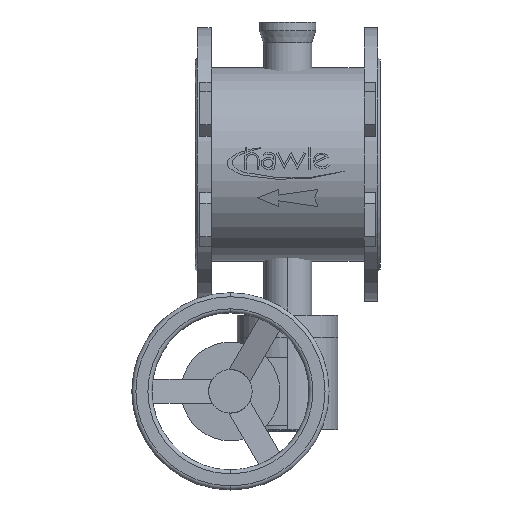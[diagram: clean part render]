
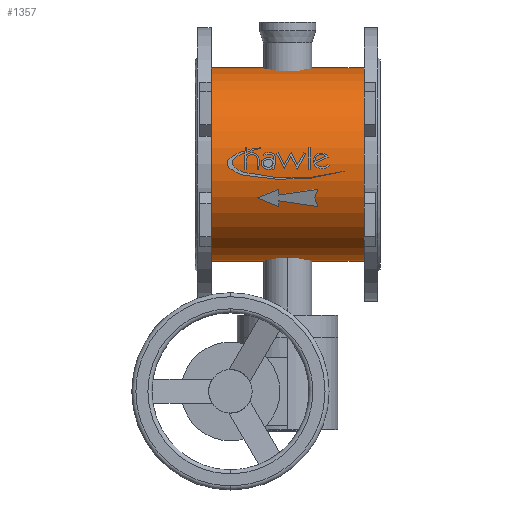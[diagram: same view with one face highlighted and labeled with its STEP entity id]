
A CAD part, top view. The second image highlights one B-rep face of the part: STEP entity #1357.
In plain terms, the highlighted cylindrical face has radius 120 mm (diameter 240 mm), a partial arc.
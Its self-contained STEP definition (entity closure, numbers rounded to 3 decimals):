
#1357=ADVANCED_FACE('',(#2612),#2613,.T.);
#2612=FACE_OUTER_BOUND('',#4088,.T.);
#2613=CYLINDRICAL_SURFACE('',#4089,120.0);
#4088=EDGE_LOOP('',(#6522,#6523,#6524,#6525));
#4089=AXIS2_PLACEMENT_3D('',#6526,#6527,#6528);
#6522=ORIENTED_EDGE('',*,*,#8355,.T.);
#6523=ORIENTED_EDGE('',*,*,#8767,.T.);
#6524=ORIENTED_EDGE('',*,*,#8356,.T.);
#6525=ORIENTED_EDGE('',*,*,#8349,.T.);
#6526=CARTESIAN_POINT('',(-210.0,0.,0.0));
#6527=DIRECTION('',(1.0,0.,0.0));
#6528=DIRECTION('',(0.,-1.0,0.0));
#8349=EDGE_CURVE('',#9972,#9971,#9974,.T.);
#8355=EDGE_CURVE('',#9971,#9982,#9983,.T.);
#8356=EDGE_CURVE('',#9984,#9972,#9985,.T.);
#8767=EDGE_CURVE('',#9982,#9984,#10557,.T.);
#9971=VERTEX_POINT('',#12129);
#9972=VERTEX_POINT('',#12130);
#9974=CIRCLE('',#12132,120.0);
#9982=VERTEX_POINT('',#12143);
#9983=LINE('',#12144,#12145);
#9984=VERTEX_POINT('',#12146);
#9985=LINE('',#12147,#12148);
#10557=CIRCLE('',#12867,120.0);
#12129=CARTESIAN_POINT('',(-210.0,-120.0,0.0));
#12130=CARTESIAN_POINT('',(-210.0,120.0,0.));
#12132=AXIS2_PLACEMENT_3D('',#14001,#14002,#14003);
#12143=CARTESIAN_POINT('',(-20.0,-120.0,0.0));
#12144=CARTESIAN_POINT('',(-210.0,-120.0,0.));
#12145=VECTOR('',#14007,1.0);
#12146=CARTESIAN_POINT('',(-20.0,120.0,0.));
#12147=CARTESIAN_POINT('',(-210.0,120.0,0.));
#12148=VECTOR('',#14008,1.0);
#12867=AXIS2_PLACEMENT_3D('',#14558,#14559,#14560);
#14001=CARTESIAN_POINT('',(-210.0,0.,0.0));
#14002=DIRECTION('',(1.0,0.,0.0));
#14003=DIRECTION('',(0.,-1.0,0.0));
#14007=DIRECTION('',(1.0,0.,0.0));
#14008=DIRECTION('',(-1.0,0.,-0.0));
#14558=CARTESIAN_POINT('',(-20.0,0.,0.0));
#14559=DIRECTION('',(-1.0,0.,0.0));
#14560=DIRECTION('',(0.,-1.0,0.0));
